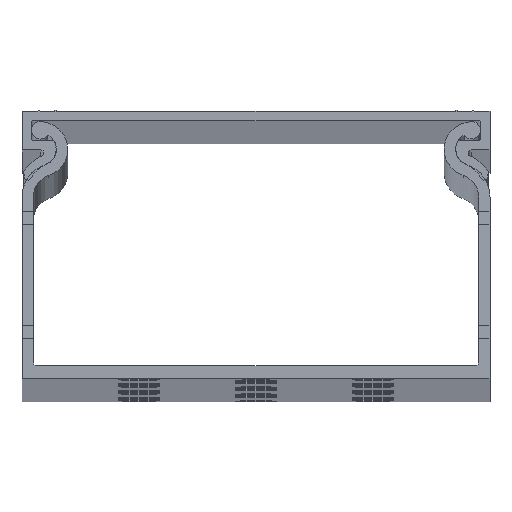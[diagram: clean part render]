
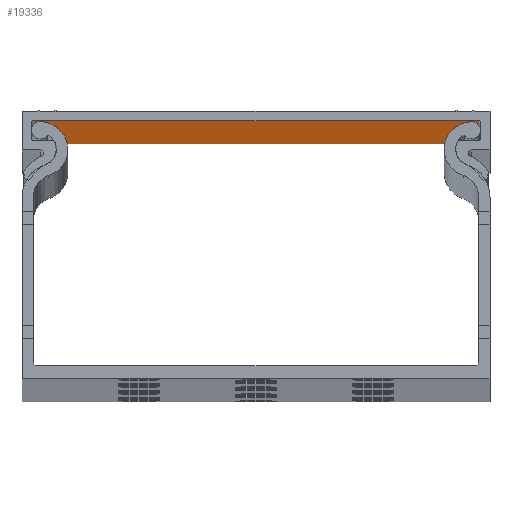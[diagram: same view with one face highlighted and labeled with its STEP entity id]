
A CAD part, top view. The second image highlights one B-rep face of the part: STEP entity #19336.
In plain terms, the highlighted planar face has unit normal (0, -1, 0).
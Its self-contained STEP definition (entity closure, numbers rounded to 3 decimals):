
#936 = DIRECTION ( 'NONE',  ( 0., 0., -1. ) ) ;
#4385 = CARTESIAN_POINT ( 'NONE',  ( 2535.007, 1295.656, 0. ) ) ;
#4952 = VECTOR ( 'NONE', #28221, 1000. ) ;
#7062 = CARTESIAN_POINT ( 'NONE',  ( 2568.407, 1295.656, 2000. ) ) ;
#7223 = DIRECTION ( 'NONE',  ( 0., 1., 0. ) ) ;
#9095 = EDGE_CURVE ( 'NONE', #10952, #65385, #52916, .T. ) ;
#9727 = CARTESIAN_POINT ( 'NONE',  ( 2568.407, 1295.656, 0. ) ) ;
#10952 = VERTEX_POINT ( 'NONE', #4385 ) ;
#11427 = CARTESIAN_POINT ( 'NONE',  ( 2601.807, 1295.656, 2000. ) ) ;
#17217 = VERTEX_POINT ( 'NONE', #37950 ) ;
#17774 = CARTESIAN_POINT ( 'NONE',  ( 2601.807, 1295.656, 0. ) ) ;
#19336 = ADVANCED_FACE ( 'NONE', ( #28882 ), #60239, .F. ) ;
#24560 = EDGE_LOOP ( 'NONE', ( #49872, #41049, #58735, #60775 ) ) ;
#28221 = DIRECTION ( 'NONE',  ( 0., 0., -1. ) ) ;
#28882 = FACE_OUTER_BOUND ( 'NONE', #24560, .T. ) ;
#29154 = VECTOR ( 'NONE', #936, 1000. ) ;
#30209 = EDGE_CURVE ( 'NONE', #46561, #65385, #58627, .T. ) ;
#30304 = LINE ( 'NONE', #49036, #4952 ) ;
#36321 = VECTOR ( 'NONE', #54402, 1000. ) ;
#37176 = LINE ( 'NONE', #7062, #36321 ) ;
#37950 = CARTESIAN_POINT ( 'NONE',  ( 2535.007, 1295.656, 2000. ) ) ;
#40631 = VECTOR ( 'NONE', #51966, 1000. ) ;
#41049 = ORIENTED_EDGE ( 'NONE', *, *, #30209, .F. ) ;
#41836 = AXIS2_PLACEMENT_3D ( 'NONE', #44246, #7223, #49463 ) ;
#43875 = CARTESIAN_POINT ( 'NONE',  ( 2601.807, 1295.656, 2000. ) ) ;
#44246 = CARTESIAN_POINT ( 'NONE',  ( 2568.407, 1295.656, 2000. ) ) ;
#46561 = VERTEX_POINT ( 'NONE', #43875 ) ;
#49036 = CARTESIAN_POINT ( 'NONE',  ( 2535.007, 1295.656, 2000. ) ) ;
#49463 = DIRECTION ( 'NONE',  ( 0., 0., 1. ) ) ;
#49872 = ORIENTED_EDGE ( 'NONE', *, *, #9095, .T. ) ;
#51632 = EDGE_CURVE ( 'NONE', #17217, #46561, #37176, .T. ) ;
#51966 = DIRECTION ( 'NONE',  ( 1., 0., 0. ) ) ;
#52916 = LINE ( 'NONE', #9727, #40631 ) ;
#54402 = DIRECTION ( 'NONE',  ( 1., 0., 0. ) ) ;
#57724 = EDGE_CURVE ( 'NONE', #17217, #10952, #30304, .T. ) ;
#58627 = LINE ( 'NONE', #11427, #29154 ) ;
#58735 = ORIENTED_EDGE ( 'NONE', *, *, #51632, .F. ) ;
#60239 = PLANE ( 'NONE',  #41836 ) ;
#60775 = ORIENTED_EDGE ( 'NONE', *, *, #57724, .T. ) ;
#65385 = VERTEX_POINT ( 'NONE', #17774 ) ;
